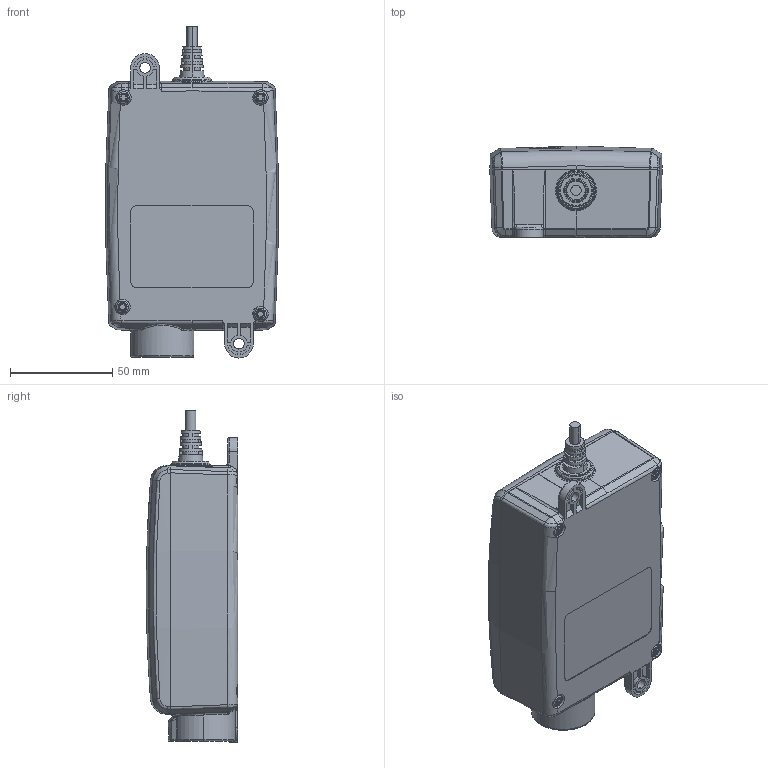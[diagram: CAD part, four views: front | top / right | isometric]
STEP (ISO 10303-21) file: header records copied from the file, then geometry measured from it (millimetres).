
FILE_DESCRIPTION (( 'STEP AP203' ), '1' );
FILE_NAME ('3D_TP9.STEP', '2022-07-27T03:32:02', ( '' ), ( '' ), 'SwSTEP 2.0', 'SolidWorks 2015', '' );
FILE_SCHEMA (( 'CONFIG_CONTROL_DESIGN' ));
Length unit declared in the file: inch
Products named in the file (1): 3D_TP9
Bounding box: 84.33 x 44.8 x 162.5 mm (x, y, z)
Volume: 442143.8 mm3; surface area: 60668.6 mm2
Topology: 9 solids, 9 shells, 599 faces, 1553 edges, 988 vertices
Faces by surface type: plane 196, cylinder 188, bspline 100, cone 53, torus 44, sphere 18
Entity records: 23646 total; most frequent: CARTESIAN_POINT 9869, ORIENTED_EDGE 3102, DIRECTION 2603, EDGE_CURVE 1551, AXIS2_PLACEMENT_3D 1018, VERTEX_POINT 988, EDGE_LOOP 623, ADVANCED_FACE 599
